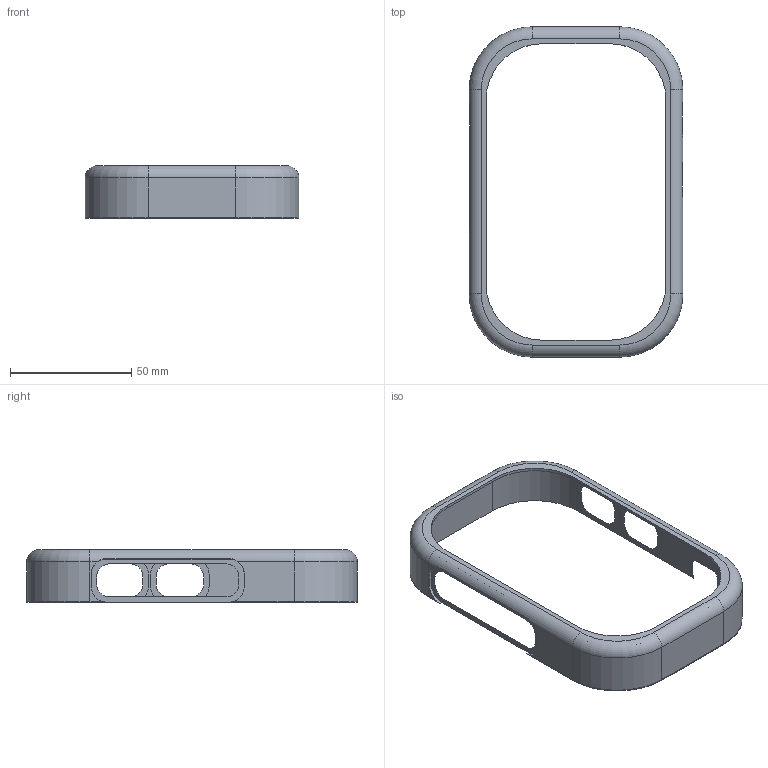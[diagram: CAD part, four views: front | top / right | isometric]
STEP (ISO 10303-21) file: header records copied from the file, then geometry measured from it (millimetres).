
FILE_DESCRIPTION(('Open CASCADE Model'),'2;1');
FILE_NAME('Open CASCADE Shape Model','2026-09-09T11:50:19',('Author'),( 'Open CASCADE'),'Open CASCADE STEP processor 7.7','Open CASCADE 7.7' ,'Unknown');
FILE_SCHEMA(('AUTOMOTIVE_DESIGN { 1 0 10303 214 1 1 1 1 }'));
Length unit declared in the file: millimetre
Products named in the file (1): Open CASCADE STEP translator 7.7 3
Bounding box: 88 x 136 x 21.6 mm (x, y, z)
Volume: 9165.9 mm3; surface area: 18971.7 mm2
Topology: 1 solids, 1 shells, 122 faces, 334 edges, 214 vertices
Faces by surface type: cylinder 60, plane 50, torus 12
Entity records: 8460 total; most frequent: CARTESIAN_POINT 1985, DIRECTION 1170, ORIENTED_EDGE 668, PCURVE 668, DEFINITIONAL_REPRESENTATION 668, LINE 612, VECTOR 612, EDGE_CURVE 334
